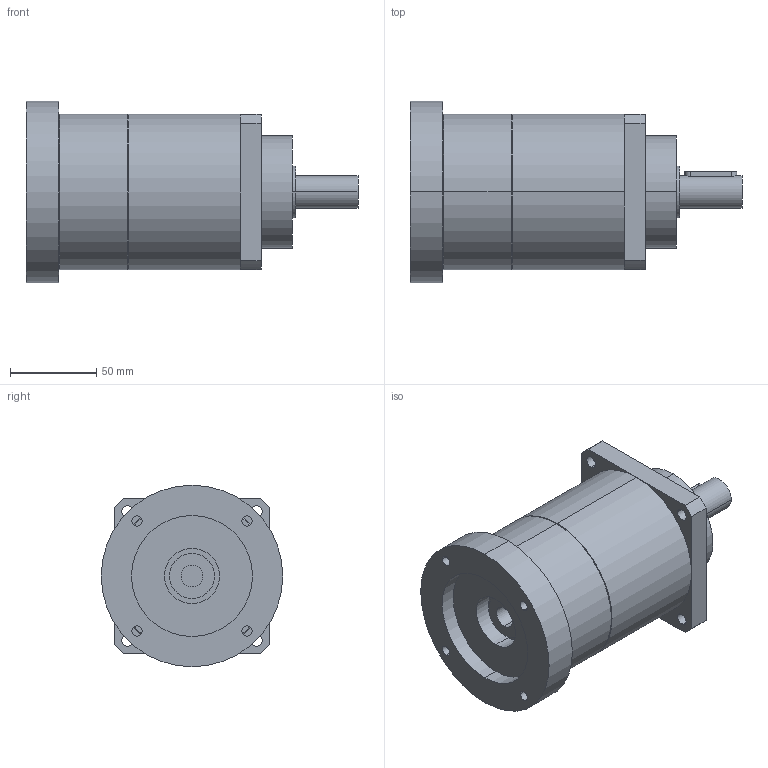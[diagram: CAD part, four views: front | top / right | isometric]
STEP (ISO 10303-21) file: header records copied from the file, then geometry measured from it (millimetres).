
FILE_DESCRIPTION(('CoCreate Modeling STEP Export'),'2;1');
FILE_NAME('GPT90_ig-9-12-16-20-25-28-35-40-50-70-100_19_B5T_12.7_P14.stp','2015-02-04T11:27:32',(''),(''),'CoCreate Modeling STEP processor for AP214 (Solid Model)','CoCreate Modeling 16.00C 25-Feb-2009 (C) Parametric Technology GmbH','');
FILE_SCHEMA(('AUTOMOTIVE_DESIGN { 1 0 10303 214 1 1 1 1 }'));
Length unit declared in the file: millimetre
Products named in the file (2): GPT90_ig-9-12-16-20-25-28-35-40-50-70-100_19_B5T_12.7_P14
Assembly tree (1 placements, depth 2):
  GPT90_ig-9-12-16-20-25-28-35-40-50-70-100_19_B5T_12.7_P14
    GPT90_ig-9-12-16-20-25-28-35-40-50-70-100_19_B5T_12.7_P14
Bounding box: 192 x 105 x 105 mm (x, y, z)
Volume: 950822.1 mm3; surface area: 74383.2 mm2
Topology: 1 solids, 1 shells, 75 faces, 205 edges, 138 vertices
Faces by surface type: cylinder 44, plane 27, cone 4
Entity records: 2477 total; most frequent: CARTESIAN_POINT 717, ORIENTED_EDGE 410, DIRECTION 294, EDGE_CURVE 205, VERTEX_POINT 138, AXIS2_PLACEMENT_3D 112, EDGE_LOOP 97, FACE_OUTER_BOUND 75
